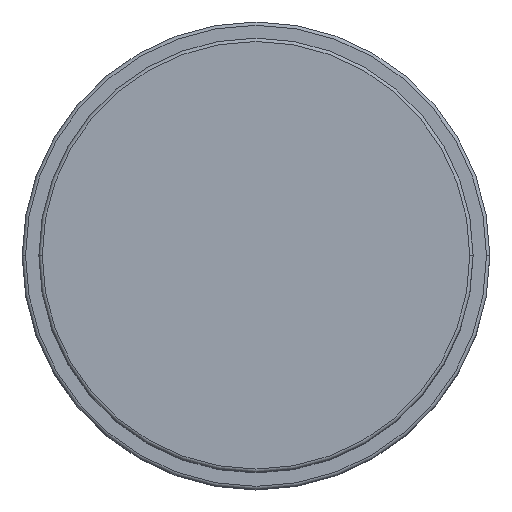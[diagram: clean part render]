
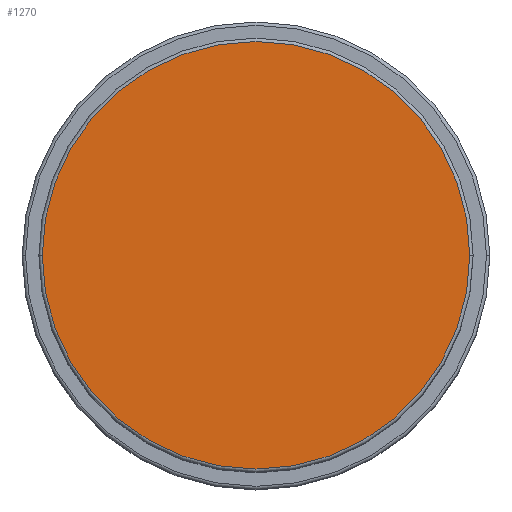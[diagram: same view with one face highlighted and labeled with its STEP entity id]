
A CAD part, top view. The second image highlights one B-rep face of the part: STEP entity #1270.
In plain terms, the highlighted planar face has unit normal (0, 0, 1).
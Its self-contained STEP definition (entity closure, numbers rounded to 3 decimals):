
#204 = AXIS2_PLACEMENT_3D ( 'NONE', #1369, #1629, #786 ) ;
#383 = AXIS2_PLACEMENT_3D ( 'NONE', #645, #1615, #1310 ) ;
#387 = ORIENTED_EDGE ( 'NONE', *, *, #516, .T. ) ;
#465 = VERTEX_POINT ( 'NONE', #1150 ) ;
#501 = CARTESIAN_POINT ( 'NONE',  ( 0., 0., 77. ) ) ;
#516 = EDGE_CURVE ( 'NONE', #686, #465, #1692, .T. ) ;
#645 = CARTESIAN_POINT ( 'NONE',  ( 0., 0., 77. ) ) ;
#657 = PLANE ( 'NONE',  #1472 ) ;
#686 = VERTEX_POINT ( 'NONE', #1487 ) ;
#696 = EDGE_CURVE ( 'NONE', #465, #686, #968, .T. ) ;
#786 = DIRECTION ( 'NONE',  ( 1., 0., 0. ) ) ;
#968 = CIRCLE ( 'NONE', #204, 32. ) ;
#1076 = EDGE_LOOP ( 'NONE', ( #387, #1153 ) ) ;
#1150 = CARTESIAN_POINT ( 'NONE',  ( -32., 0., 77. ) ) ;
#1153 = ORIENTED_EDGE ( 'NONE', *, *, #696, .T. ) ;
#1270 = ADVANCED_FACE ( 'NONE', ( #1532 ), #657, .T. ) ;
#1310 = DIRECTION ( 'NONE',  ( 1., 0., 0. ) ) ;
#1369 = CARTESIAN_POINT ( 'NONE',  ( 0., 0., 77. ) ) ;
#1460 = DIRECTION ( 'NONE',  ( 0., 0., 1. ) ) ;
#1472 = AXIS2_PLACEMENT_3D ( 'NONE', #501, #1460, #1740 ) ;
#1487 = CARTESIAN_POINT ( 'NONE',  ( 32., 0., 77. ) ) ;
#1532 = FACE_OUTER_BOUND ( 'NONE', #1076, .T. ) ;
#1615 = DIRECTION ( 'NONE',  ( 0., 0., 1. ) ) ;
#1629 = DIRECTION ( 'NONE',  ( 0., 0., 1. ) ) ;
#1692 = CIRCLE ( 'NONE', #383, 32. ) ;
#1740 = DIRECTION ( 'NONE',  ( 1., 0., 0. ) ) ;
